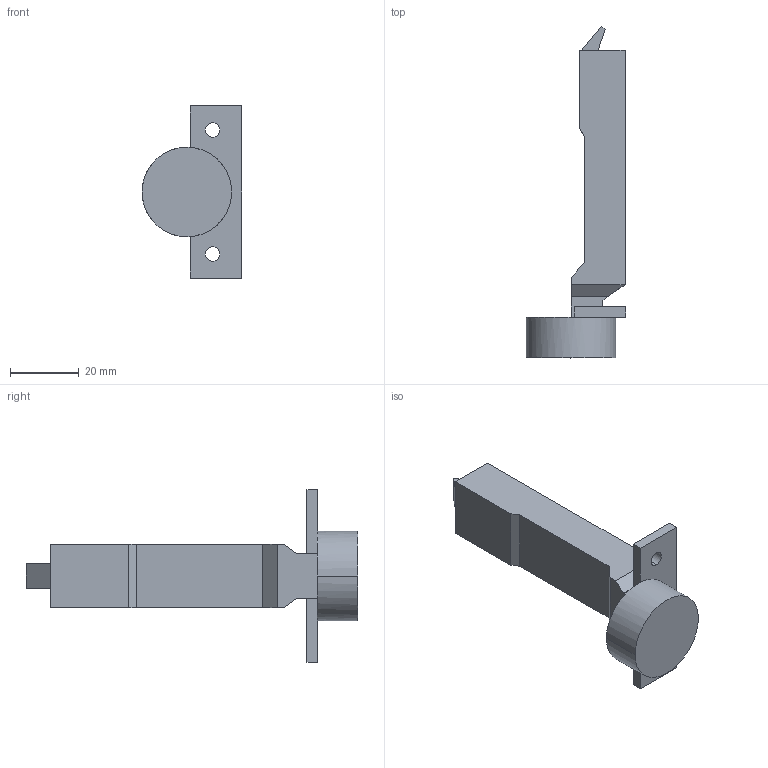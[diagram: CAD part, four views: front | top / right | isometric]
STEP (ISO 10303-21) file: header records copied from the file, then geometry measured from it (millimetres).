
FILE_DESCRIPTION (( 'STEP AP214' ), '1' );
FILE_NAME ('F045139063_136664.STEP', '2013-09-12T14:49:54', ( '' ), ( '' ), 'SwSTEP 2.0', 'SolidWorks 2012', '' );
FILE_SCHEMA (( 'AUTOMOTIVE_DESIGN' ));
Length unit declared in the file: millimetre
Products named in the file (1): F045139063_136664
Bounding box: 29 x 96.4 x 50 mm (x, y, z)
Volume: 25163 mm3; surface area: 8441.7 mm2
Topology: 1 solids, 1 shells, 46 faces, 116 edges, 76 vertices
Faces by surface type: plane 34, cylinder 12
Entity records: 1416 total; most frequent: CARTESIAN_POINT 239, DIRECTION 236, ORIENTED_EDGE 232, EDGE_CURVE 116, VECTOR 90, LINE 90, VERTEX_POINT 76, AXIS2_PLACEMENT_3D 73
